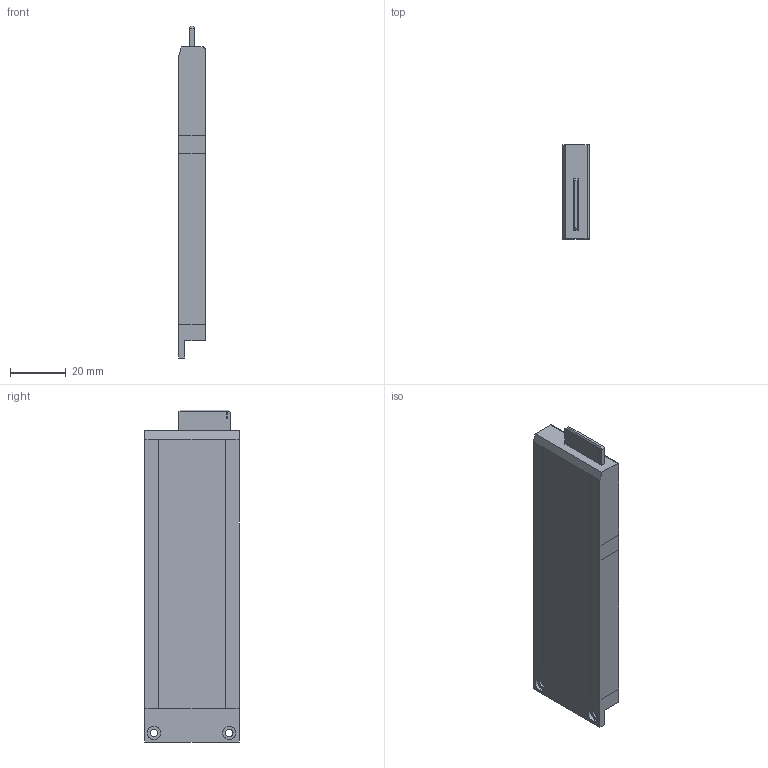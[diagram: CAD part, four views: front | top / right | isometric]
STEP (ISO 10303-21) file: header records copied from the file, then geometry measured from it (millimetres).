
FILE_DESCRIPTION (( 'STEP AP214' ), '1' );
FILE_NAME ('260820 E1.S_9.5.STEP', '2026-08-20T21:30:31', ( '' ), ( '' ), 'SwSTEP 2.0', 'SolidWorks 2022', '' );
FILE_SCHEMA (( 'AUTOMOTIVE_DESIGN' ));
Length unit declared in the file: millimetre
Products named in the file (1): 260820 E1.S_9.5
Bounding box: 9.5 x 33.75 x 118.75 mm (x, y, z)
Volume: 34230.3 mm3; surface area: 10532.7 mm2
Topology: 2 solids, 2 shells, 56 faces, 148 edges, 102 vertices
Faces by surface type: plane 47, cylinder 9
Entity records: 1990 total; most frequent: CARTESIAN_POINT 307, ORIENTED_EDGE 296, DIRECTION 280, EDGE_CURVE 148, VECTOR 130, LINE 130, VERTEX_POINT 102, AXIS2_PLACEMENT_3D 75
